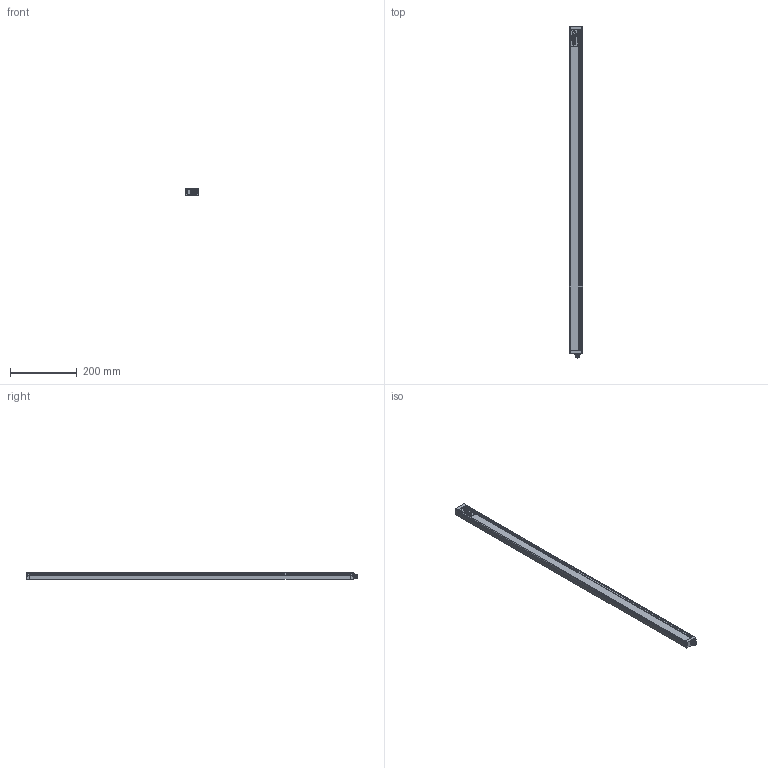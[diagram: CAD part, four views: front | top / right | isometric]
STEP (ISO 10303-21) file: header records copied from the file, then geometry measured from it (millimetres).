
FILE_DESCRIPTION(/* description */ (''),/* implementation_level */ '2;1');
FILE_NAME(/* name */ 'C:\Users\andre\SynologyDrive\Optoscan\Libreria Componenti\00 - Barriere\Polaris sorgente\Barriera Polaris RX\Polaris_960_RX.stp',/* time_stamp */ '2021-06-04T11:50:43+02:00',/* author */ ('andre'),/* organization */ (''),/* preprocessor_version */ 'ST-DEVELOPER v18',/* originating_system */ 'Autodesk Inventor 2020',/* authorisation */ '');
FILE_SCHEMA (('AUTOMOTIVE_DESIGN { 1 0 10303 214 3 1 1 }'));
Length unit declared in the file: millimetre
Products named in the file (1): Polaris_960_RX
Bounding box: 40.5 x 993.3 x 20.75 mm (x, y, z)
Volume: 198274.2 mm3; surface area: 259830.6 mm2
Topology: 1 solids, 1 shells, 700 faces, 1926 edges, 1237 vertices
Faces by surface type: plane 319, cylinder 199, bspline 94, torus 70, sphere 10, cone 8
Full cylindrical faces by diameter (mm): 1 x8, 2.459 x4, 2.5 x4, 3 x4, 3.5 x4, 5.5 x4, 8 x1, 10.5 x2, 11.75 x9, 15.7 x1, 17.5 x1
Entity records: 28472 total; most frequent: CARTESIAN_POINT 10246, ORIENTED_EDGE 3826, DIRECTION 3447, EDGE_CURVE 1913, VERTEX_POINT 1237, AXIS2_PLACEMENT_3D 1211, LINE 1025, VECTOR 1025
